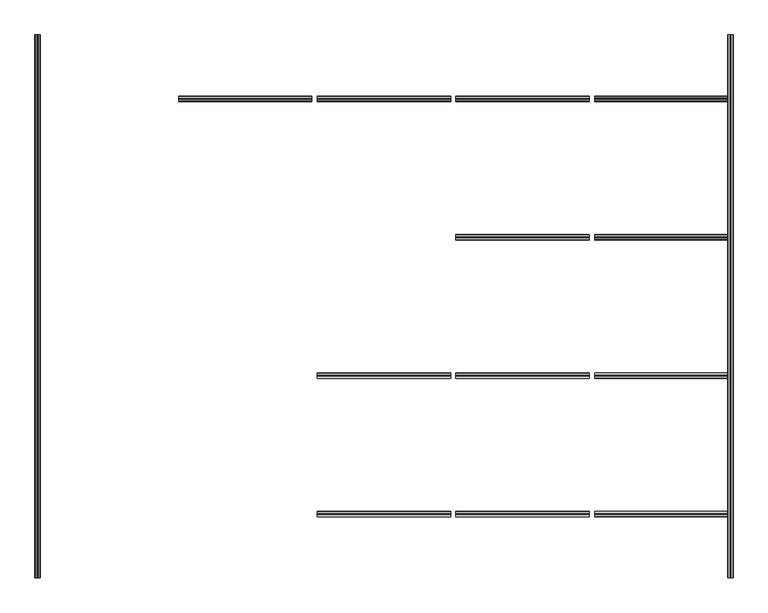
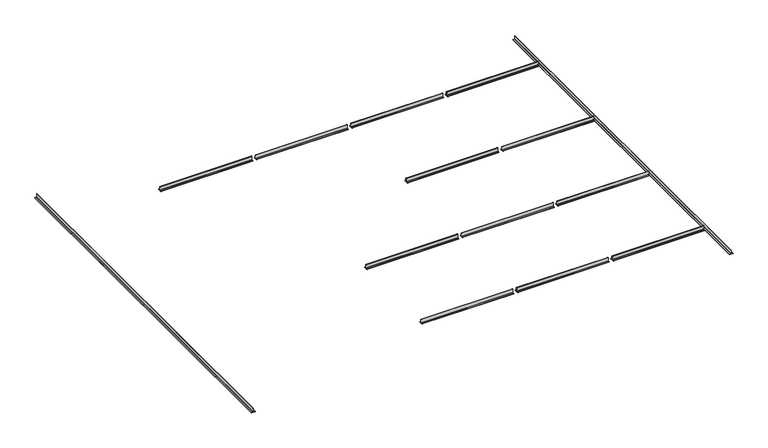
"""IFC4 building model written with IfcOpenShell, lengths in millimetres: proxy geometry, modelo_altus 2.3dm."""

from ifc_helpers import new_model, si_unit, point, frame, frame_2d, origin, place, context, project, spatial, polyline, circle_curve, trimmed, segment, composite_curve, outline, extrude, source, transform, mapped, element, save


def generic_models_47ee162d(model_context):
    return source(origin(), model_context, "Body", "SweptSolid", [
        extrude(outline(composite_curve([segment(trimmed(circle_curve(frame_2d((1566.7183647, -37.5843423)), 0.8), [point((1566.7183647, -38.3843423))], [point((1565.9183647, -37.5843423))], False, "CARTESIAN"), True, "CONTINUOUS"), segment(polyline([(1565.9183647, -37.5843423), (1565.9183647, -37.1843423)]), True, "CONTINUOUS"), segment(trimmed(circle_curve(frame_2d((1566.7183647, -37.1843423)), 0.8), [point((1565.9183647, -37.1843423))], [point((1566.7183647, -36.3843423))], False, "CARTESIAN"), True, "CONTINUOUS"), segment(polyline([(1566.7183647, -36.3843423), (1576.1183647, -36.5088944)]), True, "CONTINUOUS"), segment(trimmed(circle_curve(frame_2d((1576.1183647, -35.7088944)), 0.8), [point((1576.1183647, -36.5088944))], [point((1576.9183647, -35.7088944))], True, "CARTESIAN"), True, "CONTINUOUS"), segment(polyline([(1576.9183647, -35.7088944), (1576.8771783, -13.7843423)]), True, "CONTINUOUS"), segment(trimmed(circle_curve(frame_2d((1577.6771783, -13.7843423)), 0.8), [point((1576.8771783, -13.7843423))], [point((1577.6771783, -12.9843423))], False, "CARTESIAN"), True, "CONTINUOUS"), segment(polyline([(1577.6771783, -12.9843423), (1578.1183647, -12.9843423)]), True, "CONTINUOUS"), segment(trimmed(circle_curve(frame_2d((1578.1183647, -13.7843423)), 0.8), [point((1578.1183647, -12.9843423))], [point((1578.9183647, -13.7843423))], False, "CARTESIAN"), True, "CONTINUOUS"), segment(polyline([(1578.9183647, -13.7843423), (1578.9183647, -35.5843423)]), True, "CONTINUOUS"), segment(trimmed(circle_curve(frame_2d((1579.7183647, -35.5843423)), 0.8), [point((1578.9183647, -35.5843423))], [point((1579.7183647, -36.3843423))], True, "CARTESIAN"), True, "CONTINUOUS"), segment(polyline([(1579.7183647, -36.3843423), (1589.1183647, -36.3967521)]), True, "CONTINUOUS"), segment(trimmed(circle_curve(frame_2d((1589.1183647, -37.1967521)), 0.8), [point((1589.1183647, -36.3967521))], [point((1589.9183647, -37.1967521))], False, "CARTESIAN"), True, "CONTINUOUS"), segment(polyline([(1589.9183647, -37.1967521), (1589.9183647, -37.5843423)]), True, "CONTINUOUS"), segment(trimmed(circle_curve(frame_2d((1589.1183647, -37.5843423)), 0.8), [point((1589.9183647, -37.5843423))], [point((1589.1183647, -38.3843423))], False, "CARTESIAN"), True, "CONTINUOUS"), segment(polyline([(1589.1183647, -38.3843423), (1566.7183647, -38.3843423)]), True, "CONTINUOUS")], self_intersect=False)), frame((-15759.5786559, 0.0, 0.0), z_axis=(1.0, 0.0, 0.0), x_axis=(0.0, 1.0, 0.0)), (0.0, 0.0, 1.0), 586.0),
        extrude(outline(composite_curve([segment(trimmed(circle_curve(frame_2d((1566.7183647, -37.5843423)), 0.8), [point((1566.7183647, -38.3843423))], [point((1565.9183647, -37.5843423))], False, "CARTESIAN"), True, "CONTINUOUS"), segment(polyline([(1565.9183647, -37.5843423), (1565.9183647, -37.1843423)]), True, "CONTINUOUS"), segment(trimmed(circle_curve(frame_2d((1566.7183647, -37.1843423)), 0.8), [point((1565.9183647, -37.1843423))], [point((1566.7183647, -36.3843423))], False, "CARTESIAN"), True, "CONTINUOUS"), segment(polyline([(1566.7183647, -36.3843423), (1576.1183647, -36.5088944)]), True, "CONTINUOUS"), segment(trimmed(circle_curve(frame_2d((1576.1183647, -35.7088944)), 0.8), [point((1576.1183647, -36.5088944))], [point((1576.9183647, -35.7088944))], True, "CARTESIAN"), True, "CONTINUOUS"), segment(polyline([(1576.9183647, -35.7088944), (1576.8771783, -13.7843423)]), True, "CONTINUOUS"), segment(trimmed(circle_curve(frame_2d((1577.6771783, -13.7843423)), 0.8), [point((1576.8771783, -13.7843423))], [point((1577.6771783, -12.9843423))], False, "CARTESIAN"), True, "CONTINUOUS"), segment(polyline([(1577.6771783, -12.9843423), (1578.1183647, -12.9843423)]), True, "CONTINUOUS"), segment(trimmed(circle_curve(frame_2d((1578.1183647, -13.7843423)), 0.8), [point((1578.1183647, -12.9843423))], [point((1578.9183647, -13.7843423))], False, "CARTESIAN"), True, "CONTINUOUS"), segment(polyline([(1578.9183647, -13.7843423), (1578.9183647, -35.5843423)]), True, "CONTINUOUS"), segment(trimmed(circle_curve(frame_2d((1579.7183647, -35.5843423)), 0.8), [point((1578.9183647, -35.5843423))], [point((1579.7183647, -36.3843423))], True, "CARTESIAN"), True, "CONTINUOUS"), segment(polyline([(1579.7183647, -36.3843423), (1589.1183647, -36.3967521)]), True, "CONTINUOUS"), segment(trimmed(circle_curve(frame_2d((1589.1183647, -37.1967521)), 0.8), [point((1589.1183647, -36.3967521))], [point((1589.9183647, -37.1967521))], False, "CARTESIAN"), True, "CONTINUOUS"), segment(polyline([(1589.9183647, -37.1967521), (1589.9183647, -37.5843423)]), True, "CONTINUOUS"), segment(trimmed(circle_curve(frame_2d((1589.1183647, -37.5843423)), 0.8), [point((1589.9183647, -37.5843423))], [point((1589.1183647, -38.3843423))], False, "CARTESIAN"), True, "CONTINUOUS"), segment(polyline([(1589.1183647, -38.3843423), (1566.7183647, -38.3843423)]), True, "CONTINUOUS")], self_intersect=False)), frame((-15149.5786559, 0.0, 0.0), z_axis=(1.0, 0.0, 0.0), x_axis=(0.0, 1.0, 0.0)), (0.0, 0.0, 1.0), 586.0),
        extrude(outline(composite_curve([segment(trimmed(circle_curve(frame_2d((346.7183647, -37.5843423)), 0.8), [point((346.7183647, -38.3843423))], [point((345.9183647, -37.5843423))], False, "CARTESIAN"), True, "CONTINUOUS"), segment(polyline([(345.9183647, -37.5843423), (345.9183647, -37.1843423)]), True, "CONTINUOUS"), segment(trimmed(circle_curve(frame_2d((346.7183647, -37.1843423)), 0.8), [point((345.9183647, -37.1843423))], [point((346.7183647, -36.3843423))], False, "CARTESIAN"), True, "CONTINUOUS"), segment(polyline([(346.7183647, -36.3843423), (356.1183647, -36.5088944)]), True, "CONTINUOUS"), segment(trimmed(circle_curve(frame_2d((356.1183647, -35.7088944)), 0.8), [point((356.1183647, -36.5088944))], [point((356.9183647, -35.7088944))], True, "CARTESIAN"), True, "CONTINUOUS"), segment(polyline([(356.9183647, -35.7088944), (356.8771783, -13.7843423)]), True, "CONTINUOUS"), segment(trimmed(circle_curve(frame_2d((357.6771783, -13.7843423)), 0.8), [point((356.8771783, -13.7843423))], [point((357.6771783, -12.9843423))], False, "CARTESIAN"), True, "CONTINUOUS"), segment(polyline([(357.6771783, -12.9843423), (358.1183647, -12.9843423)]), True, "CONTINUOUS"), segment(trimmed(circle_curve(frame_2d((358.1183647, -13.7843423)), 0.8), [point((358.1183647, -12.9843423))], [point((358.9183647, -13.7843423))], False, "CARTESIAN"), True, "CONTINUOUS"), segment(polyline([(358.9183647, -13.7843423), (358.9183647, -35.5843423)]), True, "CONTINUOUS"), segment(trimmed(circle_curve(frame_2d((359.7183647, -35.5843423)), 0.8), [point((358.9183647, -35.5843423))], [point((359.7183647, -36.3843423))], True, "CARTESIAN"), True, "CONTINUOUS"), segment(polyline([(359.7183647, -36.3843423), (369.1183647, -36.3967521)]), True, "CONTINUOUS"), segment(trimmed(circle_curve(frame_2d((369.1183647, -37.1967521)), 0.8), [point((369.1183647, -36.3967521))], [point((369.9183647, -37.1967521))], False, "CARTESIAN"), True, "CONTINUOUS"), segment(polyline([(369.9183647, -37.1967521), (369.9183647, -37.5843423)]), True, "CONTINUOUS"), segment(trimmed(circle_curve(frame_2d((369.1183647, -37.5843423)), 0.8), [point((369.9183647, -37.5843423))], [point((369.1183647, -38.3843423))], False, "CARTESIAN"), True, "CONTINUOUS"), segment(polyline([(369.1183647, -38.3843423), (346.7183647, -38.3843423)]), True, "CONTINUOUS")], self_intersect=False)), frame((-15149.5786559, 0.0, 0.0), z_axis=(1.0, 0.0, 0.0), x_axis=(0.0, 1.0, 0.0)), (0.0, 0.0, 1.0), 586.0),
        extrude(outline(composite_curve([segment(trimmed(circle_curve(frame_2d((-263.2816353, -37.5843423)), 0.8), [point((-263.2816353, -38.3843423))], [point((-264.0816353, -37.5843423))], False, "CARTESIAN"), True, "CONTINUOUS"), segment(polyline([(-264.0816353, -37.5843423), (-264.0816353, -37.1843423)]), True, "CONTINUOUS"), segment(trimmed(circle_curve(frame_2d((-263.2816353, -37.1843423)), 0.8), [point((-264.0816353, -37.1843423))], [point((-263.2816353, -36.3843423))], False, "CARTESIAN"), True, "CONTINUOUS"), segment(polyline([(-263.2816353, -36.3843423), (-253.8816353, -36.5088944)]), True, "CONTINUOUS"), segment(trimmed(circle_curve(frame_2d((-253.8816353, -35.7088944)), 0.8), [point((-253.8816353, -36.5088944))], [point((-253.0816353, -35.7088944))], True, "CARTESIAN"), True, "CONTINUOUS"), segment(polyline([(-253.0816353, -35.7088944), (-253.1228217, -13.7843423)]), True, "CONTINUOUS"), segment(trimmed(circle_curve(frame_2d((-252.3228217, -13.7843423)), 0.8), [point((-253.1228217, -13.7843423))], [point((-252.3228217, -12.9843423))], False, "CARTESIAN"), True, "CONTINUOUS"), segment(polyline([(-252.3228217, -12.9843423), (-251.8816353, -12.9843423)]), True, "CONTINUOUS"), segment(trimmed(circle_curve(frame_2d((-251.8816353, -13.7843423)), 0.8), [point((-251.8816353, -12.9843423))], [point((-251.0816353, -13.7843423))], False, "CARTESIAN"), True, "CONTINUOUS"), segment(polyline([(-251.0816353, -13.7843423), (-251.0816353, -35.5843423)]), True, "CONTINUOUS"), segment(trimmed(circle_curve(frame_2d((-250.2816353, -35.5843423)), 0.8), [point((-251.0816353, -35.5843423))], [point((-250.2816353, -36.3843423))], True, "CARTESIAN"), True, "CONTINUOUS"), segment(polyline([(-250.2816353, -36.3843423), (-240.8816353, -36.3967521)]), True, "CONTINUOUS"), segment(trimmed(circle_curve(frame_2d((-240.8816353, -37.1967521)), 0.8), [point((-240.8816353, -36.3967521))], [point((-240.0816353, -37.1967521))], False, "CARTESIAN"), True, "CONTINUOUS"), segment(polyline([(-240.0816353, -37.1967521), (-240.0816353, -37.5843423)]), True, "CONTINUOUS"), segment(trimmed(circle_curve(frame_2d((-240.8816353, -37.5843423)), 0.8), [point((-240.0816353, -37.5843423))], [point((-240.8816353, -38.3843423))], False, "CARTESIAN"), True, "CONTINUOUS"), segment(polyline([(-240.8816353, -38.3843423), (-263.2816353, -38.3843423)]), True, "CONTINUOUS")], self_intersect=False)), frame((-15149.5786559, 0.0, 0.0), z_axis=(1.0, 0.0, 0.0), x_axis=(0.0, 1.0, 0.0)), (0.0, 0.0, 1.0), 586.0),
        extrude(outline(composite_curve([segment(trimmed(circle_curve(frame_2d((1566.7183647, -37.5843423)), 0.8), [point((1566.7183647, -38.3843423))], [point((1565.9183647, -37.5843423))], False, "CARTESIAN"), True, "CONTINUOUS"), segment(polyline([(1565.9183647, -37.5843423), (1565.9183647, -37.1843423)]), True, "CONTINUOUS"), segment(trimmed(circle_curve(frame_2d((1566.7183647, -37.1843423)), 0.8), [point((1565.9183647, -37.1843423))], [point((1566.7183647, -36.3843423))], False, "CARTESIAN"), True, "CONTINUOUS"), segment(polyline([(1566.7183647, -36.3843423), (1576.1183647, -36.5088944)]), True, "CONTINUOUS"), segment(trimmed(circle_curve(frame_2d((1576.1183647, -35.7088944)), 0.8), [point((1576.1183647, -36.5088944))], [point((1576.9183647, -35.7088944))], True, "CARTESIAN"), True, "CONTINUOUS"), segment(polyline([(1576.9183647, -35.7088944), (1576.8771783, -13.7843423)]), True, "CONTINUOUS"), segment(trimmed(circle_curve(frame_2d((1577.6771783, -13.7843423)), 0.8), [point((1576.8771783, -13.7843423))], [point((1577.6771783, -12.9843423))], False, "CARTESIAN"), True, "CONTINUOUS"), segment(polyline([(1577.6771783, -12.9843423), (1578.1183647, -12.9843423)]), True, "CONTINUOUS"), segment(trimmed(circle_curve(frame_2d((1578.1183647, -13.7843423)), 0.8), [point((1578.1183647, -12.9843423))], [point((1578.9183647, -13.7843423))], False, "CARTESIAN"), True, "CONTINUOUS"), segment(polyline([(1578.9183647, -13.7843423), (1578.9183647, -35.5843423)]), True, "CONTINUOUS"), segment(trimmed(circle_curve(frame_2d((1579.7183647, -35.5843423)), 0.8), [point((1578.9183647, -35.5843423))], [point((1579.7183647, -36.3843423))], True, "CARTESIAN"), True, "CONTINUOUS"), segment(polyline([(1579.7183647, -36.3843423), (1589.1183647, -36.3967521)]), True, "CONTINUOUS"), segment(trimmed(circle_curve(frame_2d((1589.1183647, -37.1967521)), 0.8), [point((1589.1183647, -36.3967521))], [point((1589.9183647, -37.1967521))], False, "CARTESIAN"), True, "CONTINUOUS"), segment(polyline([(1589.9183647, -37.1967521), (1589.9183647, -37.5843423)]), True, "CONTINUOUS"), segment(trimmed(circle_curve(frame_2d((1589.1183647, -37.5843423)), 0.8), [point((1589.9183647, -37.5843423))], [point((1589.1183647, -38.3843423))], False, "CARTESIAN"), True, "CONTINUOUS"), segment(polyline([(1589.1183647, -38.3843423), (1566.7183647, -38.3843423)]), True, "CONTINUOUS")], self_intersect=False)), frame((-14539.5786559, 0.0, 0.0), z_axis=(1.0, 0.0, 0.0), x_axis=(0.0, 1.0, 0.0)), (0.0, 0.0, 1.0), 586.0),
        extrude(outline(composite_curve([segment(trimmed(circle_curve(frame_2d((956.7183647, -37.5843423)), 0.8), [point((956.7183647, -38.3843423))], [point((955.9183647, -37.5843423))], False, "CARTESIAN"), True, "CONTINUOUS"), segment(polyline([(955.9183647, -37.5843423), (955.9183647, -37.1843423)]), True, "CONTINUOUS"), segment(trimmed(circle_curve(frame_2d((956.7183647, -37.1843423)), 0.8), [point((955.9183647, -37.1843423))], [point((956.7183647, -36.3843423))], False, "CARTESIAN"), True, "CONTINUOUS"), segment(polyline([(956.7183647, -36.3843423), (966.1183647, -36.5088944)]), True, "CONTINUOUS"), segment(trimmed(circle_curve(frame_2d((966.1183647, -35.7088944)), 0.8), [point((966.1183647, -36.5088944))], [point((966.9183647, -35.7088944))], True, "CARTESIAN"), True, "CONTINUOUS"), segment(polyline([(966.9183647, -35.7088944), (966.8771783, -13.7843423)]), True, "CONTINUOUS"), segment(trimmed(circle_curve(frame_2d((967.6771783, -13.7843423)), 0.8), [point((966.8771783, -13.7843423))], [point((967.6771783, -12.9843423))], False, "CARTESIAN"), True, "CONTINUOUS"), segment(polyline([(967.6771783, -12.9843423), (968.1183647, -12.9843423)]), True, "CONTINUOUS"), segment(trimmed(circle_curve(frame_2d((968.1183647, -13.7843423)), 0.8), [point((968.1183647, -12.9843423))], [point((968.9183647, -13.7843423))], False, "CARTESIAN"), True, "CONTINUOUS"), segment(polyline([(968.9183647, -13.7843423), (968.9183647, -35.5843423)]), True, "CONTINUOUS"), segment(trimmed(circle_curve(frame_2d((969.7183647, -35.5843423)), 0.8), [point((968.9183647, -35.5843423))], [point((969.7183647, -36.3843423))], True, "CARTESIAN"), True, "CONTINUOUS"), segment(polyline([(969.7183647, -36.3843423), (979.1183647, -36.3967521)]), True, "CONTINUOUS"), segment(trimmed(circle_curve(frame_2d((979.1183647, -37.1967521)), 0.8), [point((979.1183647, -36.3967521))], [point((979.9183647, -37.1967521))], False, "CARTESIAN"), True, "CONTINUOUS"), segment(polyline([(979.9183647, -37.1967521), (979.9183647, -37.5843423)]), True, "CONTINUOUS"), segment(trimmed(circle_curve(frame_2d((979.1183647, -37.5843423)), 0.8), [point((979.9183647, -37.5843423))], [point((979.1183647, -38.3843423))], False, "CARTESIAN"), True, "CONTINUOUS"), segment(polyline([(979.1183647, -38.3843423), (956.7183647, -38.3843423)]), True, "CONTINUOUS")], self_intersect=False)), frame((-14539.5786559, 0.0, 0.0), z_axis=(1.0, 0.0, 0.0), x_axis=(0.0, 1.0, 0.0)), (0.0, 0.0, 1.0), 586.0),
        extrude(outline(composite_curve([segment(trimmed(circle_curve(frame_2d((346.7183647, -37.5843423)), 0.8), [point((346.7183647, -38.3843423))], [point((345.9183647, -37.5843423))], False, "CARTESIAN"), True, "CONTINUOUS"), segment(polyline([(345.9183647, -37.5843423), (345.9183647, -37.1843423)]), True, "CONTINUOUS"), segment(trimmed(circle_curve(frame_2d((346.7183647, -37.1843423)), 0.8), [point((345.9183647, -37.1843423))], [point((346.7183647, -36.3843423))], False, "CARTESIAN"), True, "CONTINUOUS"), segment(polyline([(346.7183647, -36.3843423), (356.1183647, -36.5088944)]), True, "CONTINUOUS"), segment(trimmed(circle_curve(frame_2d((356.1183647, -35.7088944)), 0.8), [point((356.1183647, -36.5088944))], [point((356.9183647, -35.7088944))], True, "CARTESIAN"), True, "CONTINUOUS"), segment(polyline([(356.9183647, -35.7088944), (356.8771783, -13.7843423)]), True, "CONTINUOUS"), segment(trimmed(circle_curve(frame_2d((357.6771783, -13.7843423)), 0.8), [point((356.8771783, -13.7843423))], [point((357.6771783, -12.9843423))], False, "CARTESIAN"), True, "CONTINUOUS"), segment(polyline([(357.6771783, -12.9843423), (358.1183647, -12.9843423)]), True, "CONTINUOUS"), segment(trimmed(circle_curve(frame_2d((358.1183647, -13.7843423)), 0.8), [point((358.1183647, -12.9843423))], [point((358.9183647, -13.7843423))], False, "CARTESIAN"), True, "CONTINUOUS"), segment(polyline([(358.9183647, -13.7843423), (358.9183647, -35.5843423)]), True, "CONTINUOUS"), segment(trimmed(circle_curve(frame_2d((359.7183647, -35.5843423)), 0.8), [point((358.9183647, -35.5843423))], [point((359.7183647, -36.3843423))], True, "CARTESIAN"), True, "CONTINUOUS"), segment(polyline([(359.7183647, -36.3843423), (369.1183647, -36.3967521)]), True, "CONTINUOUS"), segment(trimmed(circle_curve(frame_2d((369.1183647, -37.1967521)), 0.8), [point((369.1183647, -36.3967521))], [point((369.9183647, -37.1967521))], False, "CARTESIAN"), True, "CONTINUOUS"), segment(polyline([(369.9183647, -37.1967521), (369.9183647, -37.5843423)]), True, "CONTINUOUS"), segment(trimmed(circle_curve(frame_2d((369.1183647, -37.5843423)), 0.8), [point((369.9183647, -37.5843423))], [point((369.1183647, -38.3843423))], False, "CARTESIAN"), True, "CONTINUOUS"), segment(polyline([(369.1183647, -38.3843423), (346.7183647, -38.3843423)]), True, "CONTINUOUS")], self_intersect=False)), frame((-14539.5786559, 0.0, 0.0), z_axis=(1.0, 0.0, 0.0), x_axis=(0.0, 1.0, 0.0)), (0.0, 0.0, 1.0), 586.0),
        extrude(outline(composite_curve([segment(trimmed(circle_curve(frame_2d((-263.2816353, -37.5843423)), 0.8), [point((-263.2816353, -38.3843423))], [point((-264.0816353, -37.5843423))], False, "CARTESIAN"), True, "CONTINUOUS"), segment(polyline([(-264.0816353, -37.5843423), (-264.0816353, -37.1843423)]), True, "CONTINUOUS"), segment(trimmed(circle_curve(frame_2d((-263.2816353, -37.1843423)), 0.8), [point((-264.0816353, -37.1843423))], [point((-263.2816353, -36.3843423))], False, "CARTESIAN"), True, "CONTINUOUS"), segment(polyline([(-263.2816353, -36.3843423), (-253.8816353, -36.5088944)]), True, "CONTINUOUS"), segment(trimmed(circle_curve(frame_2d((-253.8816353, -35.7088944)), 0.8), [point((-253.8816353, -36.5088944))], [point((-253.0816353, -35.7088944))], True, "CARTESIAN"), True, "CONTINUOUS"), segment(polyline([(-253.0816353, -35.7088944), (-253.1228217, -13.7843423)]), True, "CONTINUOUS"), segment(trimmed(circle_curve(frame_2d((-252.3228217, -13.7843423)), 0.8), [point((-253.1228217, -13.7843423))], [point((-252.3228217, -12.9843423))], False, "CARTESIAN"), True, "CONTINUOUS"), segment(polyline([(-252.3228217, -12.9843423), (-251.8816353, -12.9843423)]), True, "CONTINUOUS"), segment(trimmed(circle_curve(frame_2d((-251.8816353, -13.7843423)), 0.8), [point((-251.8816353, -12.9843423))], [point((-251.0816353, -13.7843423))], False, "CARTESIAN"), True, "CONTINUOUS"), segment(polyline([(-251.0816353, -13.7843423), (-251.0816353, -35.5843423)]), True, "CONTINUOUS"), segment(trimmed(circle_curve(frame_2d((-250.2816353, -35.5843423)), 0.8), [point((-251.0816353, -35.5843423))], [point((-250.2816353, -36.3843423))], True, "CARTESIAN"), True, "CONTINUOUS"), segment(polyline([(-250.2816353, -36.3843423), (-240.8816353, -36.3967521)]), True, "CONTINUOUS"), segment(trimmed(circle_curve(frame_2d((-240.8816353, -37.1967521)), 0.8), [point((-240.8816353, -36.3967521))], [point((-240.0816353, -37.1967521))], False, "CARTESIAN"), True, "CONTINUOUS"), segment(polyline([(-240.0816353, -37.1967521), (-240.0816353, -37.5843423)]), True, "CONTINUOUS"), segment(trimmed(circle_curve(frame_2d((-240.8816353, -37.5843423)), 0.8), [point((-240.0816353, -37.5843423))], [point((-240.8816353, -38.3843423))], False, "CARTESIAN"), True, "CONTINUOUS"), segment(polyline([(-240.8816353, -38.3843423), (-263.2816353, -38.3843423)]), True, "CONTINUOUS")], self_intersect=False)), frame((-14539.5786559, 0.0, 0.0), z_axis=(1.0, 0.0, 0.0), x_axis=(0.0, 1.0, 0.0)), (0.0, 0.0, 1.0), 586.0),
        extrude(outline(composite_curve([segment(trimmed(circle_curve(frame_2d((1566.7183647, -37.5843423)), 0.8), [point((1566.7183647, -38.3843423))], [point((1565.9183647, -37.5843423))], False, "CARTESIAN"), True, "CONTINUOUS"), segment(polyline([(1565.9183647, -37.5843423), (1565.9183647, -37.1843423)]), True, "CONTINUOUS"), segment(trimmed(circle_curve(frame_2d((1566.7183647, -37.1843423)), 0.8), [point((1565.9183647, -37.1843423))], [point((1566.7183647, -36.3843423))], False, "CARTESIAN"), True, "CONTINUOUS"), segment(polyline([(1566.7183647, -36.3843423), (1576.1183647, -36.5088944)]), True, "CONTINUOUS"), segment(trimmed(circle_curve(frame_2d((1576.1183647, -35.7088944)), 0.8), [point((1576.1183647, -36.5088944))], [point((1576.9183647, -35.7088944))], True, "CARTESIAN"), True, "CONTINUOUS"), segment(polyline([(1576.9183647, -35.7088944), (1576.8771783, -13.7843423)]), True, "CONTINUOUS"), segment(trimmed(circle_curve(frame_2d((1577.6771783, -13.7843423)), 0.8), [point((1576.8771783, -13.7843423))], [point((1577.6771783, -12.9843423))], False, "CARTESIAN"), True, "CONTINUOUS"), segment(polyline([(1577.6771783, -12.9843423), (1578.1183647, -12.9843423)]), True, "CONTINUOUS"), segment(trimmed(circle_curve(frame_2d((1578.1183647, -13.7843423)), 0.8), [point((1578.1183647, -12.9843423))], [point((1578.9183647, -13.7843423))], False, "CARTESIAN"), True, "CONTINUOUS"), segment(polyline([(1578.9183647, -13.7843423), (1578.9183647, -35.5843423)]), True, "CONTINUOUS"), segment(trimmed(circle_curve(frame_2d((1579.7183647, -35.5843423)), 0.8), [point((1578.9183647, -35.5843423))], [point((1579.7183647, -36.3843423))], True, "CARTESIAN"), True, "CONTINUOUS"), segment(polyline([(1579.7183647, -36.3843423), (1589.1183647, -36.3967521)]), True, "CONTINUOUS"), segment(trimmed(circle_curve(frame_2d((1589.1183647, -37.1967521)), 0.8), [point((1589.1183647, -36.3967521))], [point((1589.9183647, -37.1967521))], False, "CARTESIAN"), True, "CONTINUOUS"), segment(polyline([(1589.9183647, -37.1967521), (1589.9183647, -37.5843423)]), True, "CONTINUOUS"), segment(trimmed(circle_curve(frame_2d((1589.1183647, -37.5843423)), 0.8), [point((1589.9183647, -37.5843423))], [point((1589.1183647, -38.3843423))], False, "CARTESIAN"), True, "CONTINUOUS"), segment(polyline([(1589.1183647, -38.3843423), (1566.7183647, -38.3843423)]), True, "CONTINUOUS")], self_intersect=False)), frame((-13929.5786559, 0.0, 0.0), z_axis=(1.0, 0.0, 0.0), x_axis=(0.0, 1.0, 0.0)), (0.0, 0.0, 1.0), 586.0),
        extrude(outline(composite_curve([segment(trimmed(circle_curve(frame_2d((956.7183647, -37.5843423)), 0.8), [point((956.7183647, -38.3843423))], [point((955.9183647, -37.5843423))], False, "CARTESIAN"), True, "CONTINUOUS"), segment(polyline([(955.9183647, -37.5843423), (955.9183647, -37.1843423)]), True, "CONTINUOUS"), segment(trimmed(circle_curve(frame_2d((956.7183647, -37.1843423)), 0.8), [point((955.9183647, -37.1843423))], [point((956.7183647, -36.3843423))], False, "CARTESIAN"), True, "CONTINUOUS"), segment(polyline([(956.7183647, -36.3843423), (966.1183647, -36.5088944)]), True, "CONTINUOUS"), segment(trimmed(circle_curve(frame_2d((966.1183647, -35.7088944)), 0.8), [point((966.1183647, -36.5088944))], [point((966.9183647, -35.7088944))], True, "CARTESIAN"), True, "CONTINUOUS"), segment(polyline([(966.9183647, -35.7088944), (966.8771783, -13.7843423)]), True, "CONTINUOUS"), segment(trimmed(circle_curve(frame_2d((967.6771783, -13.7843423)), 0.8), [point((966.8771783, -13.7843423))], [point((967.6771783, -12.9843423))], False, "CARTESIAN"), True, "CONTINUOUS"), segment(polyline([(967.6771783, -12.9843423), (968.1183647, -12.9843423)]), True, "CONTINUOUS"), segment(trimmed(circle_curve(frame_2d((968.1183647, -13.7843423)), 0.8), [point((968.1183647, -12.9843423))], [point((968.9183647, -13.7843423))], False, "CARTESIAN"), True, "CONTINUOUS"), segment(polyline([(968.9183647, -13.7843423), (968.9183647, -35.5843423)]), True, "CONTINUOUS"), segment(trimmed(circle_curve(frame_2d((969.7183647, -35.5843423)), 0.8), [point((968.9183647, -35.5843423))], [point((969.7183647, -36.3843423))], True, "CARTESIAN"), True, "CONTINUOUS"), segment(polyline([(969.7183647, -36.3843423), (979.1183647, -36.3967521)]), True, "CONTINUOUS"), segment(trimmed(circle_curve(frame_2d((979.1183647, -37.1967521)), 0.8), [point((979.1183647, -36.3967521))], [point((979.9183647, -37.1967521))], False, "CARTESIAN"), True, "CONTINUOUS"), segment(polyline([(979.9183647, -37.1967521), (979.9183647, -37.5843423)]), True, "CONTINUOUS"), segment(trimmed(circle_curve(frame_2d((979.1183647, -37.5843423)), 0.8), [point((979.9183647, -37.5843423))], [point((979.1183647, -38.3843423))], False, "CARTESIAN"), True, "CONTINUOUS"), segment(polyline([(979.1183647, -38.3843423), (956.7183647, -38.3843423)]), True, "CONTINUOUS")], self_intersect=False)), frame((-13929.5786559, 0.0, 0.0), z_axis=(1.0, 0.0, 0.0), x_axis=(0.0, 1.0, 0.0)), (0.0, 0.0, 1.0), 586.0),
        extrude(outline(composite_curve([segment(trimmed(circle_curve(frame_2d((346.7183647, -37.5843423)), 0.8), [point((346.7183647, -38.3843423))], [point((345.9183647, -37.5843423))], False, "CARTESIAN"), True, "CONTINUOUS"), segment(polyline([(345.9183647, -37.5843423), (345.9183647, -37.1843423)]), True, "CONTINUOUS"), segment(trimmed(circle_curve(frame_2d((346.7183647, -37.1843423)), 0.8), [point((345.9183647, -37.1843423))], [point((346.7183647, -36.3843423))], False, "CARTESIAN"), True, "CONTINUOUS"), segment(polyline([(346.7183647, -36.3843423), (356.1183647, -36.5088944)]), True, "CONTINUOUS"), segment(trimmed(circle_curve(frame_2d((356.1183647, -35.7088944)), 0.8), [point((356.1183647, -36.5088944))], [point((356.9183647, -35.7088944))], True, "CARTESIAN"), True, "CONTINUOUS"), segment(polyline([(356.9183647, -35.7088944), (356.8771783, -13.7843423)]), True, "CONTINUOUS"), segment(trimmed(circle_curve(frame_2d((357.6771783, -13.7843423)), 0.8), [point((356.8771783, -13.7843423))], [point((357.6771783, -12.9843423))], False, "CARTESIAN"), True, "CONTINUOUS"), segment(polyline([(357.6771783, -12.9843423), (358.1183647, -12.9843423)]), True, "CONTINUOUS"), segment(trimmed(circle_curve(frame_2d((358.1183647, -13.7843423)), 0.8), [point((358.1183647, -12.9843423))], [point((358.9183647, -13.7843423))], False, "CARTESIAN"), True, "CONTINUOUS"), segment(polyline([(358.9183647, -13.7843423), (358.9183647, -35.5843423)]), True, "CONTINUOUS"), segment(trimmed(circle_curve(frame_2d((359.7183647, -35.5843423)), 0.8), [point((358.9183647, -35.5843423))], [point((359.7183647, -36.3843423))], True, "CARTESIAN"), True, "CONTINUOUS"), segment(polyline([(359.7183647, -36.3843423), (369.1183647, -36.3967521)]), True, "CONTINUOUS"), segment(trimmed(circle_curve(frame_2d((369.1183647, -37.1967521)), 0.8), [point((369.1183647, -36.3967521))], [point((369.9183647, -37.1967521))], False, "CARTESIAN"), True, "CONTINUOUS"), segment(polyline([(369.9183647, -37.1967521), (369.9183647, -37.5843423)]), True, "CONTINUOUS"), segment(trimmed(circle_curve(frame_2d((369.1183647, -37.5843423)), 0.8), [point((369.9183647, -37.5843423))], [point((369.1183647, -38.3843423))], False, "CARTESIAN"), True, "CONTINUOUS"), segment(polyline([(369.1183647, -38.3843423), (346.7183647, -38.3843423)]), True, "CONTINUOUS")], self_intersect=False)), frame((-13929.5786559, 0.0, 0.0), z_axis=(1.0, 0.0, 0.0), x_axis=(0.0, 1.0, 0.0)), (0.0, 0.0, 1.0), 586.0),
        extrude(outline(composite_curve([segment(trimmed(circle_curve(frame_2d((-263.2816353, -37.5843423)), 0.8), [point((-263.2816353, -38.3843423))], [point((-264.0816353, -37.5843423))], False, "CARTESIAN"), True, "CONTINUOUS"), segment(polyline([(-264.0816353, -37.5843423), (-264.0816353, -37.1843423)]), True, "CONTINUOUS"), segment(trimmed(circle_curve(frame_2d((-263.2816353, -37.1843423)), 0.8), [point((-264.0816353, -37.1843423))], [point((-263.2816353, -36.3843423))], False, "CARTESIAN"), True, "CONTINUOUS"), segment(polyline([(-263.2816353, -36.3843423), (-253.8816353, -36.5088944)]), True, "CONTINUOUS"), segment(trimmed(circle_curve(frame_2d((-253.8816353, -35.7088944)), 0.8), [point((-253.8816353, -36.5088944))], [point((-253.0816353, -35.7088944))], True, "CARTESIAN"), True, "CONTINUOUS"), segment(polyline([(-253.0816353, -35.7088944), (-253.1228217, -13.7843423)]), True, "CONTINUOUS"), segment(trimmed(circle_curve(frame_2d((-252.3228217, -13.7843423)), 0.8), [point((-253.1228217, -13.7843423))], [point((-252.3228217, -12.9843423))], False, "CARTESIAN"), True, "CONTINUOUS"), segment(polyline([(-252.3228217, -12.9843423), (-251.8816353, -12.9843423)]), True, "CONTINUOUS"), segment(trimmed(circle_curve(frame_2d((-251.8816353, -13.7843423)), 0.8), [point((-251.8816353, -12.9843423))], [point((-251.0816353, -13.7843423))], False, "CARTESIAN"), True, "CONTINUOUS"), segment(polyline([(-251.0816353, -13.7843423), (-251.0816353, -35.5843423)]), True, "CONTINUOUS"), segment(trimmed(circle_curve(frame_2d((-250.2816353, -35.5843423)), 0.8), [point((-251.0816353, -35.5843423))], [point((-250.2816353, -36.3843423))], True, "CARTESIAN"), True, "CONTINUOUS"), segment(polyline([(-250.2816353, -36.3843423), (-240.8816353, -36.3967521)]), True, "CONTINUOUS"), segment(trimmed(circle_curve(frame_2d((-240.8816353, -37.1967521)), 0.8), [point((-240.8816353, -36.3967521))], [point((-240.0816353, -37.1967521))], False, "CARTESIAN"), True, "CONTINUOUS"), segment(polyline([(-240.0816353, -37.1967521), (-240.0816353, -37.5843423)]), True, "CONTINUOUS"), segment(trimmed(circle_curve(frame_2d((-240.8816353, -37.5843423)), 0.8), [point((-240.0816353, -37.5843423))], [point((-240.8816353, -38.3843423))], False, "CARTESIAN"), True, "CONTINUOUS"), segment(polyline([(-240.8816353, -38.3843423), (-263.2816353, -38.3843423)]), True, "CONTINUOUS")], self_intersect=False)), frame((-13929.5786559, 0.0, 0.0), z_axis=(1.0, 0.0, 0.0), x_axis=(0.0, 1.0, 0.0)), (0.0, 0.0, 1.0), 586.0),
        extrude(outline(composite_curve([segment(trimmed(circle_curve(frame_2d((0.8, 0.0)), 0.8), [point((0.0, 0.0))], [point((0.8, 0.8))], False, "CARTESIAN"), True, "CONTINUOUS"), segment(polyline([(0.8, 0.8), (1.2, 0.8)]), True, "CONTINUOUS"), segment(trimmed(circle_curve(frame_2d((1.2, 0.0)), 0.8), [point((1.2, 0.8))], [point((2.0, 0.0))], False, "CARTESIAN"), True, "CONTINUOUS"), segment(polyline([(2.0, 0.0), (1.875448, -9.4)]), True, "CONTINUOUS"), segment(trimmed(circle_curve(frame_2d((2.675448, -9.4)), 0.8), [point((1.875448, -9.4))], [point((2.675448, -10.2))], True, "CARTESIAN"), True, "CONTINUOUS"), segment(polyline([(2.675448, -10.2), (24.6, -10.1588135)]), True, "CONTINUOUS"), segment(trimmed(circle_curve(frame_2d((24.6, -10.9588135)), 0.8), [point((24.6, -10.1588135))], [point((25.4, -10.9588135))], False, "CARTESIAN"), True, "CONTINUOUS"), segment(polyline([(25.4, -10.9588135), (25.4, -11.4)]), True, "CONTINUOUS"), segment(trimmed(circle_curve(frame_2d((24.6, -11.4)), 0.8), [point((25.4, -11.4))], [point((24.6, -12.2))], False, "CARTESIAN"), True, "CONTINUOUS"), segment(polyline([(24.6, -12.2), (2.8, -12.2)]), True, "CONTINUOUS"), segment(trimmed(circle_curve(frame_2d((2.8, -13.0)), 0.8), [point((2.8, -12.2))], [point((2.0, -13.0))], True, "CARTESIAN"), True, "CONTINUOUS"), segment(polyline([(2.0, -13.0), (1.9875902, -22.4)]), True, "CONTINUOUS"), segment(trimmed(circle_curve(frame_2d((1.1875902, -22.4)), 0.8), [point((1.9875902, -22.4))], [point((1.1875902, -23.2))], False, "CARTESIAN"), True, "CONTINUOUS"), segment(polyline([(1.1875902, -23.2), (0.8, -23.2)]), True, "CONTINUOUS"), segment(trimmed(circle_curve(frame_2d((0.8, -22.4)), 0.8), [point((0.8, -23.2))], [point((0.0, -22.4))], False, "CARTESIAN"), True, "CONTINUOUS"), segment(polyline([(0.0, -22.4), (0.0, 0.0)]), True, "CONTINUOUS")], self_intersect=False)), frame((-16392.7374694, 1859.5424582, -38.3879518), z_axis=(0.0, -0.9999999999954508, 3.0163753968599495e-06), x_axis=(0.0, 3.0163753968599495e-06, 0.9999999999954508)), (0.0, 0.0, 1.0), 2393.2481777),
        extrude(outline(composite_curve([segment(trimmed(circle_curve(frame_2d((0.8, 0.0)), 0.8), [point((0.0, 0.0))], [point((0.8, 0.8))], False, "CARTESIAN"), True, "CONTINUOUS"), segment(polyline([(0.8, 0.8), (1.2, 0.8)]), True, "CONTINUOUS"), segment(trimmed(circle_curve(frame_2d((1.2, 0.0)), 0.8), [point((1.2, 0.8))], [point((2.0, 0.0))], False, "CARTESIAN"), True, "CONTINUOUS"), segment(polyline([(2.0, 0.0), (1.875448, -9.4)]), True, "CONTINUOUS"), segment(trimmed(circle_curve(frame_2d((2.675448, -9.4)), 0.8), [point((1.875448, -9.4))], [point((2.675448, -10.2))], True, "CARTESIAN"), True, "CONTINUOUS"), segment(polyline([(2.675448, -10.2), (24.6, -10.1588136)]), True, "CONTINUOUS"), segment(trimmed(circle_curve(frame_2d((24.6, -10.9588136)), 0.8), [point((24.6, -10.1588136))], [point((25.4, -10.9588136))], False, "CARTESIAN"), True, "CONTINUOUS"), segment(polyline([(25.4, -10.9588136), (25.4, -11.4)]), True, "CONTINUOUS"), segment(trimmed(circle_curve(frame_2d((24.6, -11.4)), 0.8), [point((25.4, -11.4))], [point((24.6, -12.2))], False, "CARTESIAN"), True, "CONTINUOUS"), segment(polyline([(24.6, -12.2), (2.8, -12.2)]), True, "CONTINUOUS"), segment(trimmed(circle_curve(frame_2d((2.8, -13.0)), 0.8), [point((2.8, -12.2))], [point((2.0, -13.0))], True, "CARTESIAN"), True, "CONTINUOUS"), segment(polyline([(2.0, -13.0), (1.9875902, -22.4)]), True, "CONTINUOUS"), segment(trimmed(circle_curve(frame_2d((1.1875902, -22.4)), 0.8), [point((1.9875902, -22.4))], [point((1.1875902, -23.2))], False, "CARTESIAN"), True, "CONTINUOUS"), segment(polyline([(1.1875902, -23.2), (0.8, -23.2)]), True, "CONTINUOUS"), segment(trimmed(circle_curve(frame_2d((0.8, -22.4)), 0.8), [point((0.8, -23.2))], [point((0.0, -22.4))], False, "CARTESIAN"), True, "CONTINUOUS"), segment(polyline([(0.0, -22.4), (0.0, 0.0)]), True, "CONTINUOUS")], self_intersect=False)), frame((-13342.7786559, 1859.5424582, -38.3879518), z_axis=(0.0, -0.9999999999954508, 3.0163753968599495e-06), x_axis=(0.0, 3.0163753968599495e-06, 0.9999999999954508)), (0.0, 0.0, 1.0), 2393.2481777),
    ])


if __name__ == "__main__":
    model = new_model("IFC4")
    model_context = context("Model", 3, world=origin())
    ifc_project = project(units=[si_unit("LENGTHUNIT", "METRE", prefix="MILLI")], contexts=[model_context])
    site = spatial("IfcSite", under=ifc_project)
    building = spatial("IfcBuilding", under=site)
    placement = place(None, origin())
    generic_models_shape = generic_models_47ee162d(model_context)
    element("IfcBuildingElementProxy", 1, Name="modelo_altus 2.3dm", ObjectType="modelo_altus 2.3dm", at=placement, inside=building, context=model_context, shape_type="MappedRepresentation", body=[
        mapped(generic_models_shape, transform((0.0, 0.0, 0.0), x_axis=(1.0, 0.0, 0.0), y_axis=(0.0, 1.0, 0.0), z_axis=(0.0, 0.0, 1.0))),
    ])
    save(model, "model.ifc")
